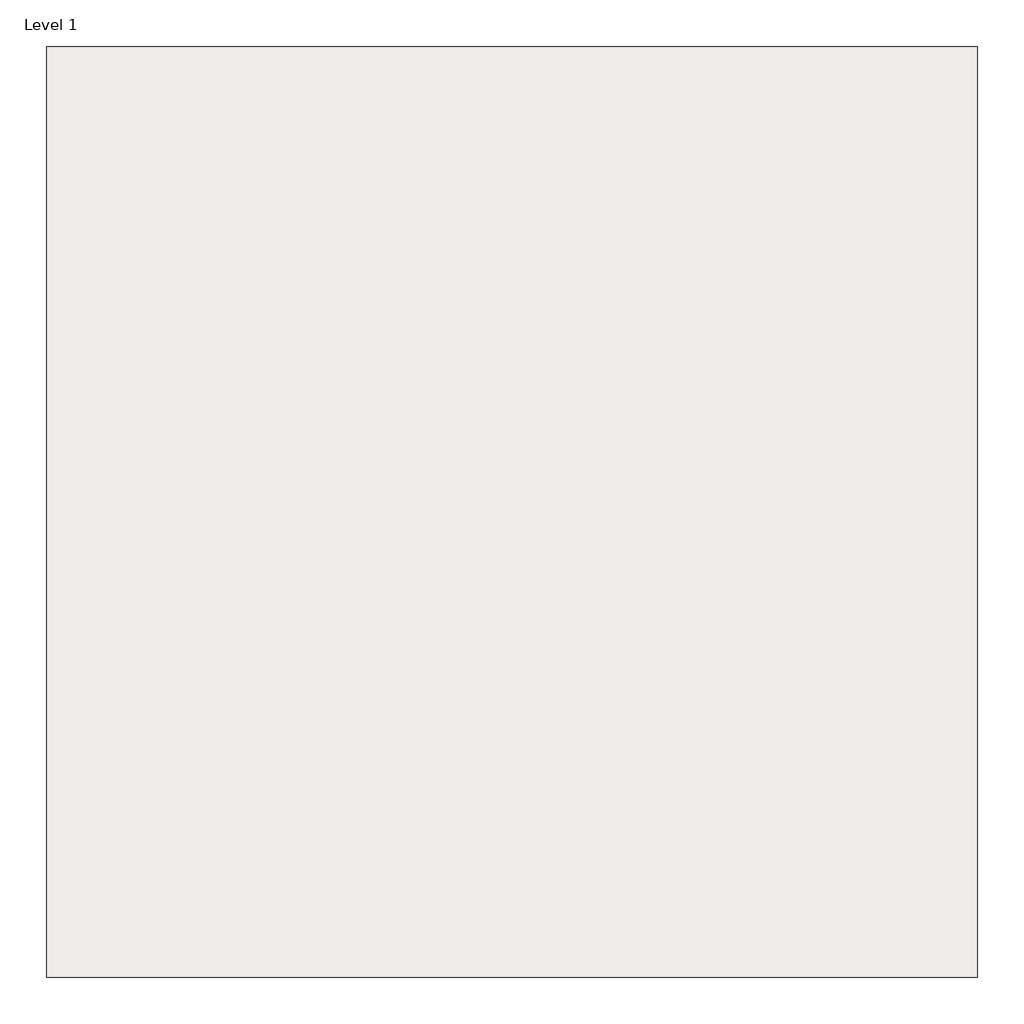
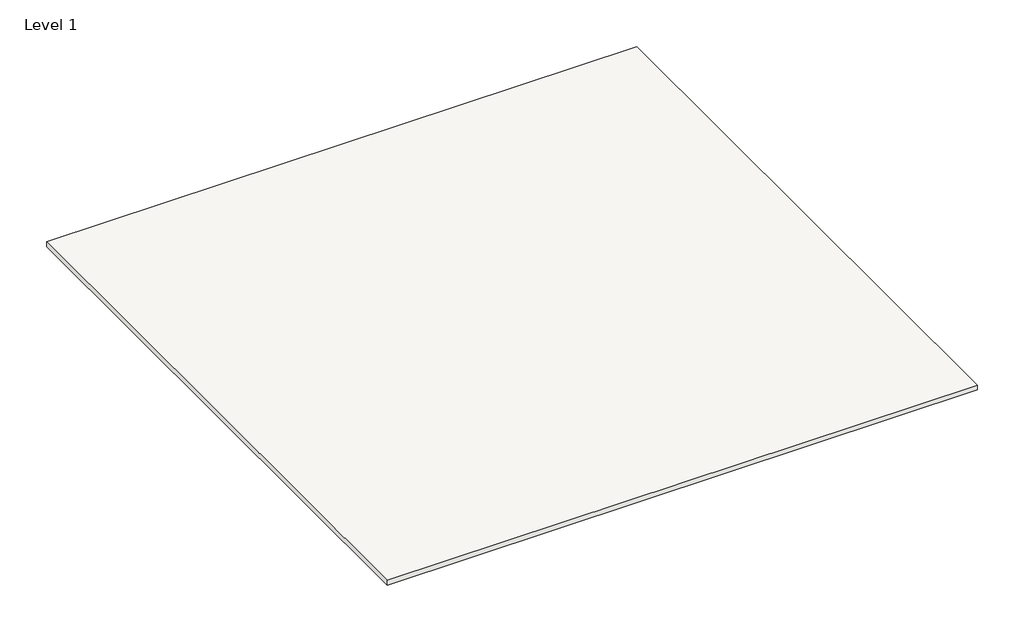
# One storey: 1 slab.
"""IFC4 building model written with IfcOpenShell, lengths in millimetres."""

from ifc_helpers import new_model, si_unit, frame, origin, place, context, project, spatial, polyline, outline, extrude, element, save

model = new_model("IFC4")

# Units and contexts
model_context = context("Model", 3, world=origin())
ifc_project = project(units=[si_unit("LENGTHUNIT", "METRE", prefix="MILLI")], contexts=[model_context])

# Site, building, storey
site = spatial("IfcSite", under=ifc_project)
building = spatial("IfcBuilding", under=site)
storey = spatial("IfcBuildingStorey", under=building, Name="Level 1", Elevation=0.0)

# Slab
placement = place(None, origin())
element("IfcSlab", 1, ObjectType="Exterior Decking - Wood - Thermory - Kodiak Spruce Decking 26x185 D4sg - Brushed", at=placement, inside=storey, context=model_context, shape_type="SweptSolid", body=[
    extrude(outline(polyline([(-7902.6916977, -17093.8314635), (-10950.6916977, -17093.8314635), (-10950.6916977, -14045.8314635), (-7902.6916977, -14045.8314635), (-7902.6916977, -17093.8314635)])), frame((0.0, 0.0, -26.0), z_axis=(0.0, 0.0, 1.0), x_axis=(1.0, 0.0, 0.0)), (0.0, 0.0, 1.0), 26.0),
])

save(model, "model.ifc")
